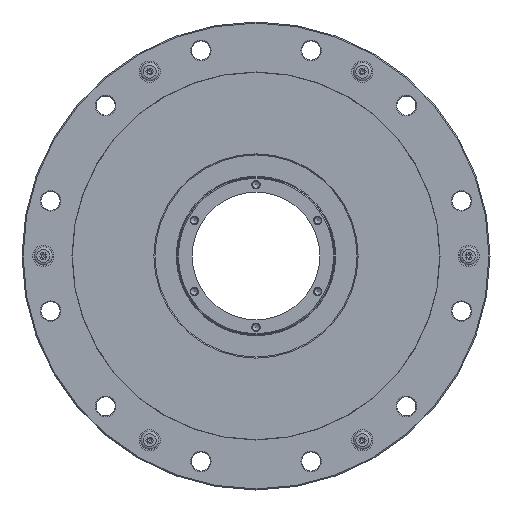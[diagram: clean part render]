
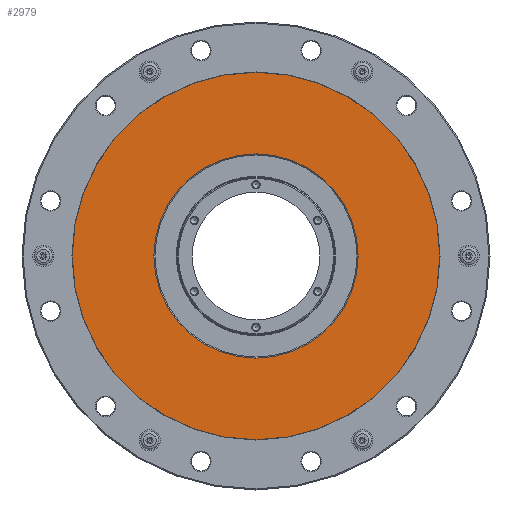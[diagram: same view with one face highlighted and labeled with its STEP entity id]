
A CAD part, left-side view. The second image highlights one B-rep face of the part: STEP entity #2979.
In plain terms, the highlighted planar face has unit normal (-1, 0, 0).
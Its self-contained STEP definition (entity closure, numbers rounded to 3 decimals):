
#2575=PLANE('',#11947);
#2979=ADVANCED_FACE('',(#4337,#4338),#2575,.F.);
#4337=FACE_BOUND('',#5993,.T.);
#4338=FACE_BOUND('',#5994,.T.);
#5993=EDGE_LOOP('',(#7699));
#5994=EDGE_LOOP('',(#7700));
#7699=ORIENTED_EDGE('',*,*,#9969,.F.);
#7700=ORIENTED_EDGE('',*,*,#9968,.T.);
#9085=VERTEX_POINT('',#17319);
#9086=VERTEX_POINT('',#17322);
#9968=EDGE_CURVE('',#9085,#9085,#10779,.T.);
#9969=EDGE_CURVE('',#9086,#9086,#10780,.T.);
#10779=CIRCLE('',#11944,86.4);
#10780=CIRCLE('',#11946,48.);
#11944=AXIS2_PLACEMENT_3D('',#17318,#14295,#14296);
#11946=AXIS2_PLACEMENT_3D('',#17321,#14299,#14300);
#11947=AXIS2_PLACEMENT_3D('',#17323,#14301,#14302);
#14295=DIRECTION('',(-1.,0.,0.));
#14296=DIRECTION('',(0.,0.,1.));
#14299=DIRECTION('',(-1.,0.,0.));
#14300=DIRECTION('',(0.,0.,1.));
#14301=DIRECTION('',(1.,0.,0.));
#14302=DIRECTION('',(0.,0.,-1.));
#17318=CARTESIAN_POINT('',(15.1,0.,0.));
#17319=CARTESIAN_POINT('',(15.1,0.,86.4));
#17321=CARTESIAN_POINT('',(15.1,0.,0.));
#17322=CARTESIAN_POINT('',(15.1,0.,48.));
#17323=CARTESIAN_POINT('',(15.1,86.4,0.));
